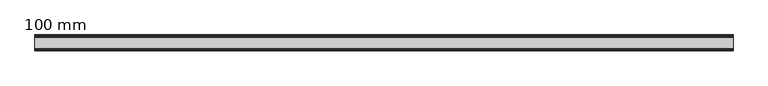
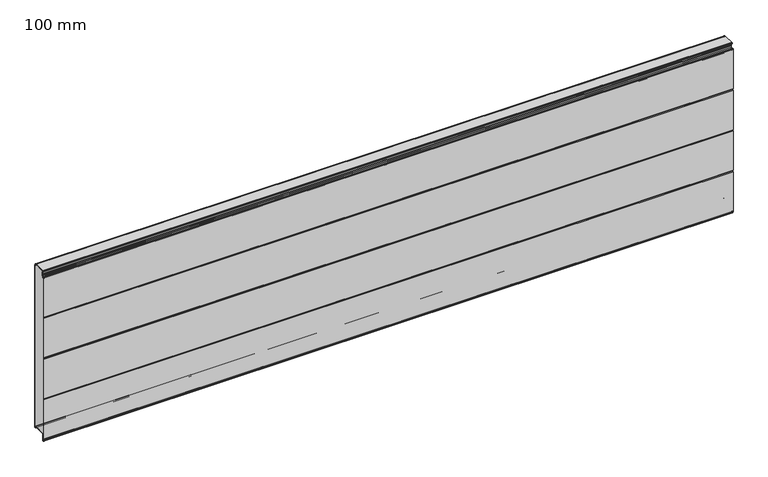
"""IFC4 building model written with IfcOpenShell, lengths in millimetres: plate geometry, HIANSA PANEL - H20.F02.003-PANELES DE FACHADA HORIZONTAL - PANEL SEMILISO - Panel de Muro Cortina : 100 mm."""

from ifc_helpers import new_model, si_unit, point, frame, frame_2d, origin, place, context, project, spatial, polyline, circle_curve, trimmed, segment, composite_curve, outline, extrude, source, transform, mapped, element, save


def plate_100_mm_49859a12(model_context):
    return source(origin(), model_context, "Body", "SweptSolid", [
        extrude(outline(polyline([(-83.7988607, 1122.7800953), (-83.0080812, 1123.2810465), (-13.7002601, 1123.2810465), (-12.8994274, 1122.7800953), (-83.7988607, 1122.7800953)])), frame((-2200.0, 0.0, 0.0), z_axis=(1.0, 0.0, 0.0), x_axis=(0.0, 1.0, 0.0)), (0.0, 0.0, 1.0), 4400.0),
        extrude(outline(polyline([(-83.7713844, 25.3200953), (-12.9220626, 25.3200953), (-13.7002597, 24.8210465), (-83.011032, 24.8210465), (-83.7713844, 25.3200953)])), frame((-2200.0, 0.0, 0.0), z_axis=(1.0, 0.0, 0.0), x_axis=(0.0, 1.0, 0.0)), (0.0, 0.0, 1.0), 4400.0),
        extrude(outline(composite_curve([segment(polyline([(-99.9990488, 261.2060325), (-98.4829198, 265.1645587), (-99.9990488, 269.1230849), (-99.9990488, 536.2060325), (-98.4829198, 540.1645587), (-99.9990488, 544.1230849), (-99.9990488, 811.2060325), (-98.4829198, 815.1645587), (-99.9990488, 819.1230849), (-99.9990488, 1086.1667807), (-99.3593999, 1088.7253764)]), True, "CONTINUOUS"), segment(trimmed(circle_curve(frame_2d((-97.5161291, 1088.2645587)), 1.9), [point((-99.3593999, 1088.7253764))], [point((-97.5161291, 1090.1645587))], False, "CARTESIAN"), True, "CONTINUOUS"), segment(polyline([(-97.5161291, 1090.1645587), (-95.3767084, 1090.1645587)]), True, "CONTINUOUS"), segment(trimmed(circle_curve(frame_2d((-95.3767084, 1089.1645587)), 1.0), [point((-95.3767084, 1090.1645587))], [point((-94.3767084, 1089.1645587))], False, "CARTESIAN"), True, "CONTINUOUS"), segment(polyline([(-94.3767084, 1089.1645587), (-94.3767084, 1079.2490488)]), True, "CONTINUOUS"), segment(trimmed(circle_curve(frame_2d((-93.3767084, 1079.2490488)), 1.0), [point((-94.3767084, 1079.2490488))], [point((-93.3767084, 1078.2490488))], True, "CARTESIAN"), True, "CONTINUOUS"), segment(polyline([(-93.3767084, 1078.2490488), (-89.1267084, 1078.2490488)]), True, "CONTINUOUS"), segment(trimmed(circle_curve(frame_2d((-89.1267084, 1079.2490488)), 1.0), [point((-89.1267084, 1078.2490488))], [point((-88.1267084, 1079.2490488))], True, "CARTESIAN"), True, "CONTINUOUS"), segment(polyline([(-88.1267084, 1079.2490488), (-88.1267084, 1082.1003519)]), True, "CONTINUOUS"), segment(trimmed(circle_curve(frame_2d((-86.1267084, 1082.1003519)), 2.0), [point((-88.1267084, 1082.1003519))], [point((-87.2738613, 1083.738656))], False, "CARTESIAN"), True, "CONTINUOUS"), segment(polyline([(-87.2738613, 1083.738656), (-81.2163437, 1087.9801754)]), True, "CONTINUOUS"), segment(trimmed(circle_curve(frame_2d((-82.0767084, 1089.2089035)), 1.5), [point((-81.2163437, 1087.9801754))], [point((-80.5767084, 1089.2089035))], True, "CARTESIAN"), True, "CONTINUOUS"), segment(polyline([(-80.5767084, 1089.2089035), (-80.5767084, 1098.4402031), (-79.6767084, 1099.9990488), (-80.5767084, 1101.5578945), (-80.5767084, 1110.7891941)]), True, "CONTINUOUS"), segment(trimmed(circle_curve(frame_2d((-82.0767084, 1110.7891941)), 1.5), [point((-80.5767084, 1110.7891941))], [point((-81.2163437, 1112.0179221))], True, "CARTESIAN"), True, "CONTINUOUS"), segment(polyline([(-81.2163437, 1112.0179221), (-87.2738613, 1116.2594416)]), True, "CONTINUOUS"), segment(trimmed(circle_curve(frame_2d((-86.1267084, 1117.8977457)), 2.0), [point((-87.2738613, 1116.2594416))], [point((-88.1267084, 1117.8977457))], False, "CARTESIAN"), True, "CONTINUOUS"), segment(polyline([(-88.1267084, 1117.8977457), (-88.1267084, 1121.2800953)]), True, "CONTINUOUS"), segment(trimmed(circle_curve(frame_2d((-86.1267084, 1121.2800953)), 2.0), [point((-88.1267084, 1121.2800953))], [point((-86.1267084, 1123.2800953))], False, "CARTESIAN"), True, "CONTINUOUS"), segment(polyline([(-86.1267084, 1123.2800953), (-83.0095828, 1123.2800953), (-83.7988607, 1122.7800953), (-86.1267084, 1122.7800953)]), True, "CONTINUOUS"), segment(trimmed(circle_curve(frame_2d((-86.1267084, 1121.2800953)), 1.5), [point((-86.1267084, 1122.7800953))], [point((-87.6267084, 1121.2800953))], True, "CARTESIAN"), True, "CONTINUOUS"), segment(polyline([(-87.6267084, 1121.2800953), (-87.6267084, 1117.8977457)]), True, "CONTINUOUS"), segment(trimmed(circle_curve(frame_2d((-86.1267084, 1117.8977457)), 1.5), [point((-87.6267084, 1117.8977457))], [point((-86.987073, 1116.6690176))], True, "CARTESIAN"), True, "CONTINUOUS"), segment(polyline([(-86.987073, 1116.6690176), (-80.9295555, 1112.4274982)]), True, "CONTINUOUS"), segment(trimmed(circle_curve(frame_2d((-82.0767084, 1110.7891941)), 2.0), [point((-80.9295555, 1112.4274982))], [point((-80.0767084, 1110.7891941))], False, "CARTESIAN"), True, "CONTINUOUS"), segment(polyline([(-80.0767084, 1110.7891941), (-80.0767084, 1101.6918691), (-79.3880333, 1100.4990488)]), True, "CONTINUOUS"), segment(trimmed(circle_curve(frame_2d((-80.2540587, 1099.9990488)), 1.0), [point((-79.3880333, 1100.4990488))], [point((-79.3880333, 1099.4990488))], False, "CARTESIAN"), True, "CONTINUOUS"), segment(polyline([(-79.3880333, 1099.4990488), (-80.0767084, 1098.3062285), (-80.0767084, 1089.2089035)]), True, "CONTINUOUS"), segment(trimmed(circle_curve(frame_2d((-82.0767084, 1089.2089035)), 2.0), [point((-80.0767084, 1089.2089035))], [point((-80.9295555, 1087.5705994))], False, "CARTESIAN"), True, "CONTINUOUS"), segment(polyline([(-80.9295555, 1087.5705994), (-86.987073, 1083.32908)]), True, "CONTINUOUS"), segment(trimmed(circle_curve(frame_2d((-86.1267084, 1082.1003519)), 1.5), [point((-86.987073, 1083.32908))], [point((-87.6267084, 1082.1003519))], True, "CARTESIAN"), True, "CONTINUOUS"), segment(polyline([(-87.6267084, 1082.1003519), (-87.6267084, 1079.2490488)]), True, "CONTINUOUS"), segment(trimmed(circle_curve(frame_2d((-89.1267084, 1079.2490488)), 1.5), [point((-87.6267084, 1079.2490488))], [point((-89.1267084, 1077.7490488))], False, "CARTESIAN"), True, "CONTINUOUS"), segment(polyline([(-89.1267084, 1077.7490488), (-93.3767084, 1077.7490488)]), True, "CONTINUOUS"), segment(trimmed(circle_curve(frame_2d((-93.3767084, 1079.2490488)), 1.5), [point((-93.3767084, 1077.7490488))], [point((-94.8767084, 1079.2490488))], False, "CARTESIAN"), True, "CONTINUOUS"), segment(polyline([(-94.8767084, 1079.2490488), (-94.8767084, 1089.6645587), (-97.5161291, 1089.6645587)]), True, "CONTINUOUS"), segment(trimmed(circle_curve(frame_2d((-97.5161291, 1088.2645587)), 1.4), [point((-97.5161291, 1089.6645587))], [point((-98.8743286, 1088.6041086))], True, "CARTESIAN"), True, "CONTINUOUS"), segment(polyline([(-98.8743286, 1088.6041086), (-99.4990488, 1086.1052279), (-99.4990488, 819.2053746), (-97.9514025, 815.1645587), (-99.4990488, 811.1237428), (-99.4990488, 544.2053746), (-97.9514025, 540.1645587), (-99.4990488, 536.1237428), (-99.4990488, 269.2053746), (-97.9514025, 265.1645587), (-99.4990488, 261.1237428), (-99.4990488, -5.7761105), (-98.8741312, -8.2757808)]), True, "CONTINUOUS"), segment(trimmed(circle_curve(frame_2d((-97.5169431, -7.9364838)), 1.3989577), [point((-98.8741312, -8.2757808))], [point((-97.5169431, -9.3354415))], True, "CARTESIAN"), True, "CONTINUOUS"), segment(polyline([(-97.5169431, -9.3354415), (-95.1267084, -9.3354413)]), True, "CONTINUOUS"), segment(trimmed(circle_curve(frame_2d((-95.1267084, -10.8354413)), 1.5), [point((-95.1267084, -9.3354413))], [point((-93.6267084, -10.8354413))], False, "CARTESIAN"), True, "CONTINUOUS"), segment(polyline([(-93.6267084, -10.8354413), (-93.6267084, -20.7509512), (-88.8767084, -20.7509512), (-88.8767084, 22.7800953)]), True, "CONTINUOUS"), segment(trimmed(circle_curve(frame_2d((-86.3367084, 22.7800953)), 2.54), [point((-88.8767084, 22.7800953))], [point((-86.3367084, 25.3200953))], False, "CARTESIAN"), True, "CONTINUOUS"), segment(polyline([(-86.3367084, 25.3200953), (-83.7713844, 25.3200953), (-83.0095828, 24.8200953), (-86.3367084, 24.8200953)]), True, "CONTINUOUS"), segment(trimmed(circle_curve(frame_2d((-86.3367084, 22.7800953)), 2.04), [point((-86.3367084, 24.8200953))], [point((-88.3767084, 22.7800953))], True, "CARTESIAN"), True, "CONTINUOUS"), segment(polyline([(-88.3767084, 22.7800953), (-88.3767084, -20.2509512)]), True, "CONTINUOUS"), segment(trimmed(circle_curve(frame_2d((-89.3767084, -20.2509512)), 1.0), [point((-88.3767084, -20.2509512))], [point((-89.3767084, -21.2509512))], False, "CARTESIAN"), True, "CONTINUOUS"), segment(polyline([(-89.3767084, -21.2509512), (-93.1267084, -21.2509512)]), True, "CONTINUOUS"), segment(trimmed(circle_curve(frame_2d((-93.1267084, -20.2509512)), 1.0), [point((-93.1267084, -21.2509512))], [point((-94.1267084, -20.2509512))], False, "CARTESIAN"), True, "CONTINUOUS"), segment(polyline([(-94.1267084, -20.2509512), (-94.1267084, -10.8354413)]), True, "CONTINUOUS"), segment(trimmed(circle_curve(frame_2d((-95.1267084, -10.8354413)), 1.0), [point((-94.1267084, -10.8354413))], [point((-95.1267084, -9.8354413))], True, "CARTESIAN"), True, "CONTINUOUS"), segment(polyline([(-95.1267084, -9.8354413), (-97.5161291, -9.8354413)]), True, "CONTINUOUS"), segment(trimmed(circle_curve(frame_2d((-97.5161291, -7.9354413)), 1.9), [point((-97.5161291, -9.8354413))], [point((-99.3593999, -8.396259))], False, "CARTESIAN"), True, "CONTINUOUS"), segment(polyline([(-99.3593999, -8.396259), (-99.9990488, -5.8376633), (-99.9990488, 261.2060325)]), True, "CONTINUOUS")], self_intersect=False)), frame((-2200.0, 0.0, 0.0), z_axis=(1.0, 0.0, 0.0), x_axis=(0.0, 1.0, 0.0)), (0.0, 0.0, 1.0), 4400.0),
        extrude(outline(composite_curve([segment(polyline([(-99.4927405, -5.8041988), (-99.4927405, 261.1436493), (-97.9523542, 265.16551), (-99.5000005, 269.2063259), (-99.5000005, 536.1246941), (-97.9523542, 540.16551), (-99.5000005, 544.2063259), (-99.5000005, 811.1246941), (-97.9523542, 815.16551), (-99.4927405, 819.1873707), (-99.4927405, 1086.1352189), (-98.8752803, 1088.6050599)]), True, "CONTINUOUS"), segment(trimmed(circle_curve(frame_2d((-97.5170808, 1088.26551)), 1.4), [point((-98.8752803, 1088.6050599))], [point((-97.5170808, 1089.66551))], False, "CARTESIAN"), True, "CONTINUOUS"), segment(polyline([(-97.5170808, 1089.66551), (-94.8776601, 1089.66551), (-94.8776601, 1079.2500001)]), True, "CONTINUOUS"), segment(trimmed(circle_curve(frame_2d((-93.3776601, 1079.2500001)), 1.5), [point((-94.8776601, 1079.2500001))], [point((-93.3776601, 1077.7500001))], True, "CARTESIAN"), True, "CONTINUOUS"), segment(polyline([(-93.3776601, 1077.7500001), (-89.1276601, 1077.7500001)]), True, "CONTINUOUS"), segment(trimmed(circle_curve(frame_2d((-89.1276601, 1079.2500001)), 1.5), [point((-89.1276601, 1077.7500001))], [point((-87.6276601, 1079.2500001))], True, "CARTESIAN"), True, "CONTINUOUS"), segment(polyline([(-87.6276601, 1079.2500001), (-87.6276601, 1082.1013032)]), True, "CONTINUOUS"), segment(trimmed(circle_curve(frame_2d((-86.1276601, 1082.1013032)), 1.5), [point((-87.6276601, 1082.1013032))], [point((-86.9880247, 1083.3300313))], False, "CARTESIAN"), True, "CONTINUOUS"), segment(polyline([(-86.9880247, 1083.3300313), (-80.9305072, 1087.5715507)]), True, "CONTINUOUS"), segment(trimmed(circle_curve(frame_2d((-82.0776601, 1089.2098548)), 2.0), [point((-80.9305072, 1087.5715507))], [point((-80.0776601, 1089.2098548))], True, "CARTESIAN"), True, "CONTINUOUS"), segment(polyline([(-80.0776601, 1089.2098548), (-80.0776601, 1098.3071798), (-79.3889849, 1099.5000001)]), True, "CONTINUOUS"), segment(trimmed(circle_curve(frame_2d((-80.2550103, 1100.0000001)), 1.0), [point((-79.3889849, 1099.5000001))], [point((-79.3889849, 1100.5000001))], True, "CARTESIAN"), True, "CONTINUOUS"), segment(polyline([(-79.3889849, 1100.5000001), (-80.0776601, 1101.6928204), (-80.0776601, 1110.7901454)]), True, "CONTINUOUS"), segment(trimmed(circle_curve(frame_2d((-82.0776601, 1110.7901454)), 2.0), [point((-80.0776601, 1110.7901454))], [point((-80.9305072, 1112.4284495))], True, "CARTESIAN"), True, "CONTINUOUS"), segment(polyline([(-80.9305072, 1112.4284495), (-86.9880247, 1116.6699689)]), True, "CONTINUOUS"), segment(trimmed(circle_curve(frame_2d((-86.1276601, 1117.898697)), 1.5), [point((-86.9880247, 1116.6699689))], [point((-87.6276601, 1117.898697))], False, "CARTESIAN"), True, "CONTINUOUS"), segment(polyline([(-87.6276601, 1117.898697), (-87.6276601, 1121.2810466)]), True, "CONTINUOUS"), segment(trimmed(circle_curve(frame_2d((-86.1276601, 1121.2810466)), 1.5), [point((-87.6276601, 1121.2810466))], [point((-86.1276601, 1122.7810466))], False, "CARTESIAN"), True, "CONTINUOUS"), segment(polyline([(-86.1276601, 1122.7810466), (-7.7500005, 1122.7810466)]), True, "CONTINUOUS"), segment(trimmed(circle_curve(frame_2d((-7.7500005, 1121.7810466)), 1.0), [point((-7.7500005, 1122.7810466))], [point((-6.7500005, 1121.7810466))], False, "CARTESIAN"), True, "CONTINUOUS"), segment(polyline([(-6.7500005, 1121.7810466), (-6.7500005, 1115.631732)]), True, "CONTINUOUS"), segment(trimmed(circle_curve(frame_2d((-4.7460005, 1115.631732)), 2.004), [point((-6.7500005, 1115.631732))], [point((-4.7460005, 1113.627732))], True, "CARTESIAN"), True, "CONTINUOUS"), segment(polyline([(-4.7460005, 1113.627732), (-1.5, 1113.627732)]), True, "CONTINUOUS"), segment(trimmed(circle_curve(frame_2d((-1.5, 1112.627732)), 1.0), [point((-1.5, 1113.627732))], [point((-0.5, 1112.627732))], False, "CARTESIAN"), True, "CONTINUOUS"), segment(polyline([(-0.5, 1112.627732), (-0.5, 1087.7488722), (-1.5000005, 1084.7488708), (-1.5000005, 1044.5865932), (-0.5000005, 1041.5865932), (-0.5000005, 996.7488708), (-1.5000005, 993.7488708), (-1.5000005, 953.5865932), (-0.5000005, 950.5865932), (-0.5000005, 905.7488708), (-1.5000005, 902.7488708), (-1.5000005, 862.5865932), (-0.5000005, 859.5865932), (-0.5000005, 814.7488708), (-1.5000005, 811.7488708), (-1.5000005, 771.5865932), (-0.5000005, 768.5865932), (-0.5000005, 723.7488708), (-1.5000005, 720.7488708), (-1.5000005, 680.5865932), (-0.5000005, 677.5865932), (-0.5000005, 632.7488708), (-1.5000005, 629.7488708), (-1.5000005, 589.5865932), (-0.5000005, 586.5865932), (-0.5000005, 541.7488708), (-1.5000005, 538.7488708), (-1.5000005, 498.5865932), (-0.5000005, 495.5865932), (-0.5000005, 450.7488708), (-1.5000005, 447.7488708), (-1.5000005, 407.5865932), (-0.5000005, 404.5865932), (-0.5000005, 359.7488708), (-1.5000005, 356.7488708), (-1.5000005, 316.5865932), (-0.5000005, 313.5865932), (-0.5000005, 268.7488708), (-1.5000005, 265.7488708), (-1.5000005, 225.5865932), (-0.5000005, 222.5865932), (-0.5000005, 177.7488708), (-1.5000005, 174.7488708), (-1.5000005, 134.5865932), (-0.5000005, 131.5865932), (-0.5000005, 86.7488708), (-1.5000005, 83.7488708), (-1.5000005, 43.5865932), (-0.5, 40.5865932), (-0.5, 15.6677319)]), True, "CONTINUOUS"), segment(trimmed(circle_curve(frame_2d((-1.4999997, 15.6677319)), 0.9999997), [point((-0.5, 15.6677319))], [point((-1.4999977, 14.6677322))], False, "CARTESIAN"), True, "CONTINUOUS"), segment(polyline([(-1.4999977, 14.6677322), (-4.4999978, 14.6677261)]), True, "CONTINUOUS"), segment(trimmed(circle_curve(frame_2d((-4.4999998, 15.6677321)), 1.0000061), [point((-4.4999978, 14.6677261))], [point((-5.5000059, 15.6677321))], False, "CARTESIAN"), True, "CONTINUOUS"), segment(polyline([(-5.5000059, 15.6677321), (-5.5000059, 23.2810466)]), True, "CONTINUOUS"), segment(trimmed(circle_curve(frame_2d((-7.540006, 23.2810466)), 2.0400002), [point((-5.5000059, 23.2810466))], [point((-7.540006, 25.3210467))], True, "CARTESIAN"), True, "CONTINUOUS"), segment(polyline([(-7.540006, 25.3210467), (-86.3376601, 25.3210467)]), True, "CONTINUOUS"), segment(trimmed(circle_curve(frame_2d((-86.3376601, 22.7810466)), 2.54), [point((-86.3376601, 25.3210467))], [point((-88.8776601, 22.7810466))], True, "CARTESIAN"), True, "CONTINUOUS"), segment(polyline([(-88.8776601, 22.7810466), (-88.8776601, -20.7499999), (-93.6276601, -20.7499999), (-93.6276601, -10.83449)]), True, "CONTINUOUS"), segment(trimmed(circle_curve(frame_2d((-95.1276601, -10.83449)), 1.5), [point((-93.6276601, -10.83449))], [point((-95.1276601, -9.33449))], True, "CARTESIAN"), True, "CONTINUOUS"), segment(polyline([(-95.1276601, -9.33449), (-97.5178947, -9.33449)]), True, "CONTINUOUS"), segment(trimmed(circle_curve(frame_2d((-97.5178947, -7.9355324)), 1.3989576), [point((-97.5178947, -9.33449))], [point((-98.8750829, -8.2748295))], False, "CARTESIAN"), True, "CONTINUOUS"), segment(polyline([(-98.8750829, -8.2748295), (-99.4927405, -5.8041988)]), True, "CONTINUOUS")], self_intersect=False)), frame((-2200.0, 0.0, 0.0), z_axis=(1.0, 0.0, 0.0), x_axis=(0.0, 1.0, 0.0)), (0.0, 0.0, 1.0), 4400.0),
        extrude(outline(composite_curve([segment(polyline([(-13.7002597, 24.8210465), (-12.9205793, 25.3210465), (-7.5400057, 25.3210465)]), True, "CONTINUOUS"), segment(trimmed(circle_curve(frame_2d((-7.5400057, 23.2810465)), 2.04), [point((-7.5400057, 25.3210465))], [point((-5.5000057, 23.2810465))], False, "CARTESIAN"), True, "CONTINUOUS"), segment(polyline([(-5.5000057, 23.2810465), (-5.5000057, 15.6677319)]), True, "CONTINUOUS"), segment(trimmed(circle_curve(frame_2d((-4.5, 15.6677319)), 1.0000057), [point((-5.5000057, 15.6677319))], [point((-4.4999981, 14.6677262))], True, "CARTESIAN"), True, "CONTINUOUS"), segment(polyline([(-4.4999981, 14.6677262), (-1.4999981, 14.6677319)]), True, "CONTINUOUS"), segment(trimmed(circle_curve(frame_2d((-1.5, 15.6677319)), 1.0), [point((-1.4999981, 14.6677319))], [point((-0.5, 15.6677319))], True, "CARTESIAN"), True, "CONTINUOUS"), segment(polyline([(-0.5, 15.6677319), (-0.5, 40.5865931), (-1.5, 43.5865931), (-1.5, 83.7488708), (-0.5, 86.7488708), (-0.5, 131.5865931), (-1.5, 134.5865931), (-1.5, 174.7488708), (-0.5, 177.7488708), (-0.5, 222.5865931), (-1.5, 225.5865931), (-1.5, 265.7488708), (-0.5, 268.7488708), (-0.5, 313.5865931), (-1.5, 316.5865931), (-1.5, 356.7488708), (-0.5, 359.7488708), (-0.5, 404.5865931), (-1.5, 407.5865931), (-1.5, 447.7488708), (-0.5, 450.7488708), (-0.5, 495.5865931), (-1.5, 498.5865931), (-1.5, 538.7488708), (-0.5, 541.7488708), (-0.5, 586.5865931), (-1.5, 589.5865931), (-1.5, 629.7488708), (-0.5, 632.7488708), (-0.5, 677.5865931), (-1.5, 680.5865931), (-1.5, 720.7488708), (-0.5, 723.7488708), (-0.5, 768.5865931), (-1.5, 771.5865931), (-1.5, 811.7488708), (-0.5, 814.7488708), (-0.5, 859.5865931), (-1.5, 862.5865931), (-1.5, 902.7488708), (-0.5, 905.7488708), (-0.5, 950.5865931), (-1.5, 953.5865931), (-1.5, 993.7488708), (-0.5, 996.7488708), (-0.5, 1041.5865931), (-1.5, 1044.5865931), (-1.5, 1084.7488708), (-0.5, 1087.7488708), (-0.5, 1112.6277319)]), True, "CONTINUOUS"), segment(trimmed(circle_curve(frame_2d((-1.5, 1112.6277319)), 1.0), [point((-0.5, 1112.6277319))], [point((-1.5, 1113.6277319))], True, "CARTESIAN"), True, "CONTINUOUS"), segment(polyline([(-1.5, 1113.6277319), (-4.746, 1113.6277319)]), True, "CONTINUOUS"), segment(trimmed(circle_curve(frame_2d((-4.746, 1115.6317319)), 2.004), [point((-4.746, 1113.6277319))], [point((-6.75, 1115.6317319))], False, "CARTESIAN"), True, "CONTINUOUS"), segment(polyline([(-6.75, 1115.6317319), (-6.75, 1121.7810465)]), True, "CONTINUOUS"), segment(trimmed(circle_curve(frame_2d((-7.75, 1121.7810465)), 1.0), [point((-6.75, 1121.7810465))], [point((-7.75, 1122.7810465))], True, "CARTESIAN"), True, "CONTINUOUS"), segment(polyline([(-7.75, 1122.7810465), (-12.9009477, 1122.7810465), (-13.7002597, 1123.2810465), (-7.7500057, 1123.2810465)]), True, "CONTINUOUS"), segment(trimmed(circle_curve(frame_2d((-7.7500057, 1121.7810465)), 1.5), [point((-7.7500057, 1123.2810465))], [point((-6.2500057, 1121.7810465))], False, "CARTESIAN"), True, "CONTINUOUS"), segment(polyline([(-6.2500057, 1121.7810465), (-6.2500057, 1115.631727)]), True, "CONTINUOUS"), segment(trimmed(circle_curve(frame_2d((-4.7460057, 1115.631727)), 1.504), [point((-6.2500057, 1115.631727))], [point((-4.7460034, 1114.127727))], True, "CARTESIAN"), True, "CONTINUOUS"), segment(polyline([(-4.7460034, 1114.127727), (-1.5000023, 1114.1277319)]), True, "CONTINUOUS"), segment(trimmed(circle_curve(frame_2d((-1.5, 1112.6277319)), 1.5), [point((-1.5000023, 1114.1277319))], [point((0.0, 1112.6277319))], False, "CARTESIAN"), True, "CONTINUOUS"), segment(polyline([(0.0, 1112.6277319), (0.0, 1087.6677319), (-1.0, 1084.6677319), (-1.0, 1044.6677319), (0.0, 1041.6677319), (0.0, 996.6677319), (-1.0, 993.6677319), (-1.0, 953.6677319), (0.0, 950.6677319), (0.0, 905.6677319), (-1.0, 902.6677319), (-1.0, 862.6677319), (0.0, 859.6677319), (0.0, 814.6677319), (-1.0, 811.6677319), (-1.0, 771.6677319), (0.0, 768.6677319), (0.0, 723.6677319), (-1.0, 720.6677319), (-1.0, 680.6677319), (0.0, 677.6677319), (0.0, 632.6677319), (-1.0, 629.6677319), (-1.0, 589.6677319), (0.0, 586.6677319), (0.0, 541.6677319), (-1.0, 538.6677319), (-1.0, 498.6677319), (0.0, 495.6677319), (0.0, 450.6677319), (-1.0, 447.6677319), (-1.0, 407.6677319), (0.0, 404.6677319), (0.0, 359.6677319), (-1.0, 356.6677319), (-1.0, 316.6677319), (0.0, 313.6677319), (0.0, 268.6677319), (-1.0, 265.6677319), (-1.0, 225.6677319), (0.0, 222.6677319), (0.0, 177.6677319), (-1.0, 174.6677319), (-1.0, 134.6677319), (0.0, 131.6677319), (0.0, 86.6677319), (-1.0, 83.6677319), (-1.0, 43.6677319), (0.0, 40.6677319), (0.0, 15.6677319)]), True, "CONTINUOUS"), segment(trimmed(circle_curve(frame_2d((-1.5, 15.6677319)), 1.5), [point((0.0, 15.6677319))], [point((-1.5, 14.1677319))], False, "CARTESIAN"), True, "CONTINUOUS"), segment(polyline([(-1.5, 14.1677319), (-4.5, 14.1677319)]), True, "CONTINUOUS"), segment(trimmed(circle_curve(frame_2d((-4.5, 15.6677319)), 1.5), [point((-4.5, 14.1677319))], [point((-6.0, 15.6677319))], False, "CARTESIAN"), True, "CONTINUOUS"), segment(polyline([(-6.0, 15.6677319), (-6.0, 23.2810465)]), True, "CONTINUOUS"), segment(trimmed(circle_curve(frame_2d((-7.54, 23.2810465)), 1.54), [point((-6.0, 23.2810465))], [point((-7.54, 24.8210465))], True, "CARTESIAN"), True, "CONTINUOUS"), segment(polyline([(-7.54, 24.8210465), (-13.7002597, 24.8210465)]), True, "CONTINUOUS")], self_intersect=False)), frame((-2200.0, 0.0, 0.0), z_axis=(1.0, 0.0, 0.0), x_axis=(0.0, 1.0, 0.0)), (0.0, 0.0, 1.0), 4400.0),
    ])


if __name__ == "__main__":
    model = new_model("IFC4")
    model_context = context("Model", 3, world=origin())
    ifc_project = project(units=[si_unit("LENGTHUNIT", "METRE", prefix="MILLI")], contexts=[model_context])
    site = spatial("IfcSite", under=ifc_project)
    building = spatial("IfcBuilding", under=site)
    placement = place(None, origin())
    plate_100_mm_shape = plate_100_mm_49859a12(model_context)
    element("IfcPlate", 1, ObjectType="HIANSA PANEL - H20.F02.003-PANELES DE FACHADA HORIZONTAL - PANEL SEMILISO - Panel de Muro Cortina : 100 mm", at=placement, inside=building, context=model_context, shape_type="MappedRepresentation", body=[
        mapped(plate_100_mm_shape, transform((0.0, 0.0, 0.0), x_axis=(1.0, 0.0, 0.0), y_axis=(0.0, 1.0, 0.0), z_axis=(0.0, 0.0, 1.0))),
    ])
    save(model, "model.ifc")
